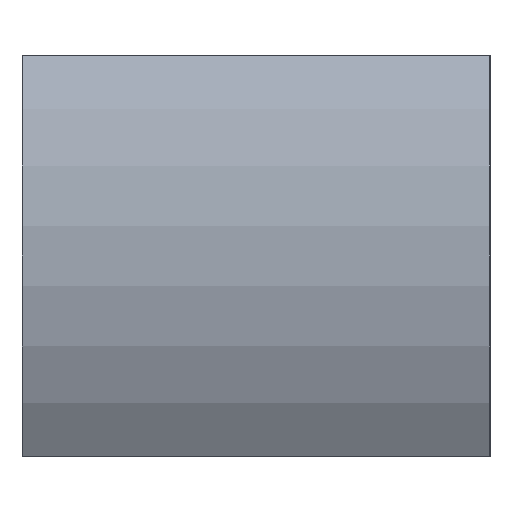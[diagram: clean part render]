
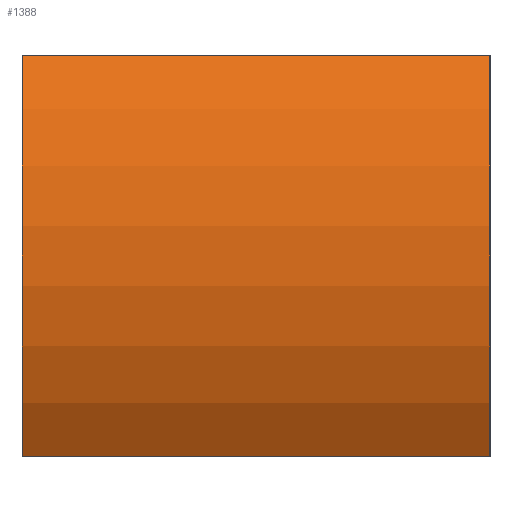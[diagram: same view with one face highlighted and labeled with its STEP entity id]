
A CAD part, left-side view. The second image highlights one B-rep face of the part: STEP entity #1388.
In plain terms, the highlighted cylindrical face has radius 16.5 mm (diameter 33 mm), a partial arc.
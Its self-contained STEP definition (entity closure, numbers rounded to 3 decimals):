
#243 = VECTOR ( 'NONE', #1878, 1000. ) ;
#245 = CARTESIAN_POINT ( 'NONE',  ( 0., -10.5, 0. ) ) ;
#275 = AXIS2_PLACEMENT_3D ( 'NONE', #245, #2160, #3594 ) ;
#346 = AXIS2_PLACEMENT_3D ( 'NONE', #2385, #3524, #1572 ) ;
#420 = LINE ( 'NONE', #1848, #803 ) ;
#706 = EDGE_CURVE ( 'NONE', #2615, #1115, #420, .T. ) ;
#803 = VECTOR ( 'NONE', #2947, 1000. ) ;
#828 = CARTESIAN_POINT ( 'NONE',  ( -13.829, 10.5, 9. ) ) ;
#872 = AXIS2_PLACEMENT_3D ( 'NONE', #3224, #991, #2907 ) ;
#991 = DIRECTION ( 'NONE',  ( 0., 1., 0. ) ) ;
#1115 = VERTEX_POINT ( 'NONE', #2849 ) ;
#1388 = ADVANCED_FACE ( 'NONE', ( #1415 ), #2789, .T. ) ;
#1415 = FACE_OUTER_BOUND ( 'NONE', #2195, .T. ) ;
#1476 = ORIENTED_EDGE ( 'NONE', *, *, #2411, .F. ) ;
#1531 = EDGE_CURVE ( 'NONE', #1115, #1575, #2530, .T. ) ;
#1572 = DIRECTION ( 'NONE',  ( 0., 0., -1. ) ) ;
#1575 = VERTEX_POINT ( 'NONE', #3044 ) ;
#1619 = CARTESIAN_POINT ( 'NONE',  ( -13.829, 10.5, -9. ) ) ;
#1795 = ORIENTED_EDGE ( 'NONE', *, *, #2660, .F. ) ;
#1848 = CARTESIAN_POINT ( 'NONE',  ( -13.829, 10.5, -9. ) ) ;
#1878 = DIRECTION ( 'NONE',  ( 0., -1., 0. ) ) ;
#2046 = CIRCLE ( 'NONE', #872, 16.5 ) ;
#2128 = CARTESIAN_POINT ( 'NONE',  ( -13.829, 10.5, 9. ) ) ;
#2160 = DIRECTION ( 'NONE',  ( 0., 1., 0. ) ) ;
#2195 = EDGE_LOOP ( 'NONE', ( #2525, #1795, #1476, #2668 ) ) ;
#2385 = CARTESIAN_POINT ( 'NONE',  ( 0., 10.5, 0. ) ) ;
#2411 = EDGE_CURVE ( 'NONE', #2615, #3248, #2046, .T. ) ;
#2471 = LINE ( 'NONE', #2128, #243 ) ;
#2525 = ORIENTED_EDGE ( 'NONE', *, *, #1531, .T. ) ;
#2530 = CIRCLE ( 'NONE', #275, 16.5 ) ;
#2615 = VERTEX_POINT ( 'NONE', #1619 ) ;
#2660 = EDGE_CURVE ( 'NONE', #3248, #1575, #2471, .T. ) ;
#2668 = ORIENTED_EDGE ( 'NONE', *, *, #706, .T. ) ;
#2789 = CYLINDRICAL_SURFACE ( 'NONE', #346, 16.5 ) ;
#2849 = CARTESIAN_POINT ( 'NONE',  ( -13.829, -10.5, -9. ) ) ;
#2907 = DIRECTION ( 'NONE',  ( 0., 0., 1. ) ) ;
#2947 = DIRECTION ( 'NONE',  ( 0., -1., 0. ) ) ;
#3044 = CARTESIAN_POINT ( 'NONE',  ( -13.829, -10.5, 9. ) ) ;
#3224 = CARTESIAN_POINT ( 'NONE',  ( 0., 10.5, 0. ) ) ;
#3248 = VERTEX_POINT ( 'NONE', #828 ) ;
#3524 = DIRECTION ( 'NONE',  ( 0., -1., 0. ) ) ;
#3594 = DIRECTION ( 'NONE',  ( 0., 0., 1. ) ) ;
